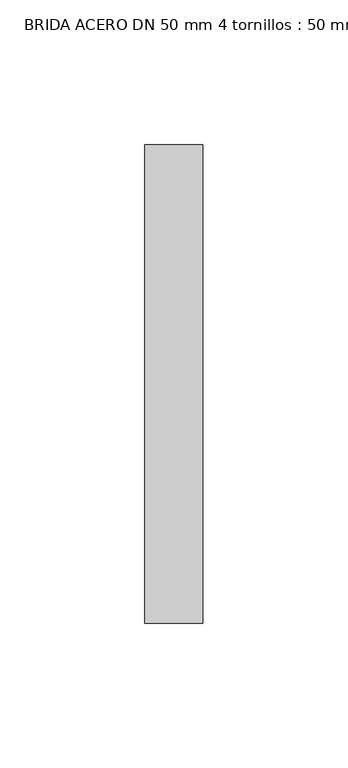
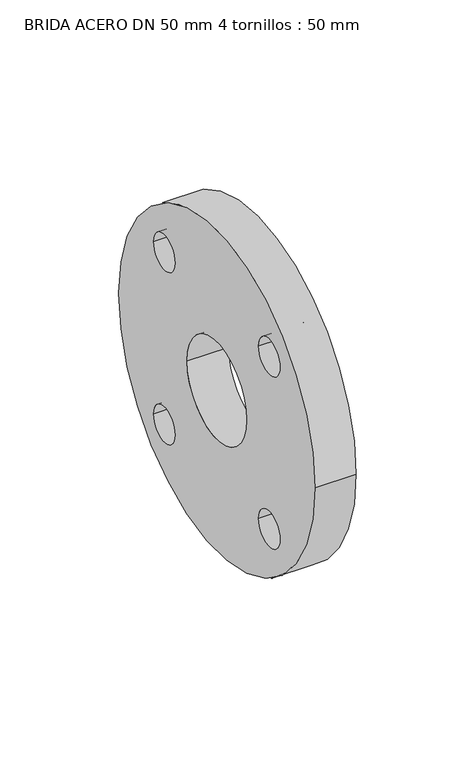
"""IFC4 building model written with IfcOpenShell, lengths in millimetres: pipe fitting geometry, BRIDA ACERO DN 50 mm 4 tornillos : 50 mm."""

import ifcopenshell
import ifcopenshell.guid

model = None  # the IFC model being written
_history = None  # IfcOwnerHistory: only IFC2X3 demands one
_inside = {}  # id of a spatial element -> (the spatial element, [elements in it])
_under = {}  # id of a project, library or spatial element -> (it, [spatial elements below it])
_declared = {}  # id of a project -> (the project, [libraries it declares])
_typed = {}  # id of a type object -> (the type object, [elements of that type])
_made_of = {}  # id of a material, layer set ... -> (it, [elements and type objects made of it])


def new_model(schema):
    """Start an empty IFC model of exactly this schema.

    Asked for "IFC4X3", IfcOpenShell would pick the latest addendum, in which some entities
    have other attributes; the version numbers below select the first issue.
    IFC2X3 requires an IfcOwnerHistory on every rooted entity: one is made here for all.
    """
    global model, _history
    if schema == "IFC4X3":
        model = ifcopenshell.file(schema_version=(4, 3, 0, 0))
    else:
        model = ifcopenshell.file(schema=schema)
    _inside.clear()
    _under.clear()
    _declared.clear()
    _typed.clear()
    _made_of.clear()
    _history = None
    if model.schema == "IFC2X3":
        org = make("IfcOrganization", Name="unknown")
        user = make(
            "IfcPersonAndOrganization",
            ThePerson=make("IfcPerson", FamilyName="unknown"),
            TheOrganization=org,
        )
        app = make(
            "IfcApplication",
            ApplicationDeveloper=org,
            Version="unknown",
            ApplicationFullName="unknown",
            ApplicationIdentifier="unknown",
        )
        _history = make(
            "IfcOwnerHistory",
            OwningUser=user,
            OwningApplication=app,
            ChangeAction="ADDED",
            CreationDate=0,
        )
    return model


def make(cls, **values):
    """One entity of the class cls with the attributes given. An attribute that is None is left unset."""
    return model.create_entity(
        cls, **{name: value for name, value in values.items() if value is not None}
    )


def rooted(cls, **values):
    """An entity with a GlobalId (a new one), such as an element, a storey or a relation."""
    return make(cls, GlobalId=ifcopenshell.guid.new(), OwnerHistory=_history, **values)


def si_unit(unit_type, name, prefix=None):
    """IfcSIUnit, for example si_unit("LENGTHUNIT", "METRE", prefix="MILLI")."""
    return make("IfcSIUnit", UnitType=unit_type, Prefix=prefix, Name=name)


def assignment(units):
    """IfcUnitAssignment: the units of a project."""
    return None if units is None else make("IfcUnitAssignment", Units=units)


def point(xyz):
    """IfcCartesianPoint."""
    return None if xyz is None else make("IfcCartesianPoint", Coordinates=xyz)


def direction(xyz):
    """IfcDirection."""
    return None if xyz is None else make("IfcDirection", DirectionRatios=xyz)


def frame(location, z_axis=None, x_axis=None):
    """IfcAxis2Placement3D, a coordinate frame: its origin and axes. An axis left out is left unset."""
    return make(
        "IfcAxis2Placement3D",
        Location=point(location),
        Axis=direction(z_axis),
        RefDirection=direction(x_axis),
    )


def frame_2d(location, x_axis=None):
    """IfcAxis2Placement2D, a coordinate frame in the plane: its origin and x axis."""
    return make(
        "IfcAxis2Placement2D", Location=point(location), RefDirection=direction(x_axis)
    )


def origin():
    """The frame at (0, 0, 0) with its axes left unset."""
    return frame((0.0, 0.0, 0.0))


def origin_2d():
    """The frame at (0, 0) in the plane with its x axis left unset."""
    return frame_2d((0.0, 0.0))


def place(relative_to, where):
    """IfcLocalPlacement: puts the frame where relative to a parent placement (None: the world)."""
    return make(
        "IfcLocalPlacement", PlacementRelTo=relative_to, RelativePlacement=where
    )


def context(
    kind, dimensions, precision=None, world=None, true_north=None, identifier=None
):
    """IfcGeometricRepresentationContext, for example the 3D "Model" context."""
    return make(
        "IfcGeometricRepresentationContext",
        ContextIdentifier=identifier,
        ContextType=kind,
        CoordinateSpaceDimension=dimensions,
        Precision=precision,
        WorldCoordinateSystem=world,
        TrueNorth=true_north,
    )


def project(units=None, contexts=None):
    """IfcProject with its units and contexts."""
    return rooted(
        "IfcProject",
        Name="project",
        RepresentationContexts=contexts,
        UnitsInContext=assignment(units),
    )


def spatial(cls, under=None, at=None, **own):
    """A site, building, storey or space (cls), placed at a placement, below another one or the project."""
    s = rooted(cls, ObjectPlacement=at, **own)
    if under is not None:
        _under.setdefault(under.id(), (under, []))[1].append(s)
    return s


def circle_curve(where, radius):
    """IfcCircle in the frame where."""
    return make("IfcCircle", Position=where, Radius=radius)


def trimmed(basis, trim1, trim2, sense, master):
    """IfcTrimmedCurve: the piece of a basis curve between two trims."""
    return make(
        "IfcTrimmedCurve",
        BasisCurve=basis,
        Trim1=trim1,
        Trim2=trim2,
        SenseAgreement=sense,
        MasterRepresentation=master,
    )


def segment(curve, same_sense, transition):
    """IfcCompositeCurveSegment."""
    return make(
        "IfcCompositeCurveSegment",
        Transition=transition,
        SameSense=same_sense,
        ParentCurve=curve,
    )


def composite_curve(segments, self_intersect=None):
    """IfcCompositeCurve: segments joined end to end."""
    return make("IfcCompositeCurve", Segments=segments, SelfIntersect=self_intersect)


def outline(outer, holes=None, kind="AREA"):
    """IfcArbitraryClosedProfileDef: a profile drawn as a closed curve; with holes, ...WithVoids."""
    if holes is None:
        return make("IfcArbitraryClosedProfileDef", ProfileType=kind, OuterCurve=outer)
    return make(
        "IfcArbitraryProfileDefWithVoids",
        ProfileType=kind,
        OuterCurve=outer,
        InnerCurves=holes,
    )


def extrude(swept, where, along, depth):
    """IfcExtrudedAreaSolid: the profile swept, set in the frame where, extruded along a direction by depth."""
    return make(
        "IfcExtrudedAreaSolid",
        SweptArea=swept,
        Position=where,
        ExtrudedDirection=direction(along),
        Depth=depth,
    )


def shape(context_of_items, identifier, shape_type, items):
    """IfcShapeRepresentation: the items that make up one representation, for example the "Body"."""
    return make(
        "IfcShapeRepresentation",
        ContextOfItems=context_of_items,
        RepresentationIdentifier=identifier,
        RepresentationType=shape_type,
        Items=items,
    )


def source(mapping_origin, context_of_items, identifier, shape_type, items):
    """IfcRepresentationMap: a shape defined once, which mapped items show again and again."""
    return make(
        "IfcRepresentationMap",
        MappingOrigin=mapping_origin,
        MappedRepresentation=shape(context_of_items, identifier, shape_type, items),
    )


def transform(
    local_origin,
    x_axis=None,
    y_axis=None,
    z_axis=None,
    scale=None,
    scale2=None,
    scale3=None,
    uniform=True,
):
    """IfcCartesianTransformationOperator3D, or its non-uniform kind. x_axis, y_axis, z_axis: its Axis1, 2, 3."""
    if uniform:
        return make(
            "IfcCartesianTransformationOperator3D",
            Axis1=direction(x_axis),
            Axis2=direction(y_axis),
            LocalOrigin=point(local_origin),
            Scale=scale,
            Axis3=direction(z_axis),
        )
    return make(
        "IfcCartesianTransformationOperator3DnonUniform",
        Axis1=direction(x_axis),
        Axis2=direction(y_axis),
        LocalOrigin=point(local_origin),
        Scale=scale,
        Axis3=direction(z_axis),
        Scale2=scale2,
        Scale3=scale3,
    )


def mapped(mapping_source, mapping_target):
    """IfcMappedItem: shows the shape of a source again, moved by a transform."""
    return make(
        "IfcMappedItem", MappingSource=mapping_source, MappingTarget=mapping_target
    )


def made_of(thing, what):
    """Note that an element or type object is made of a material, layer set ...; save() writes the relation."""
    if what is not None:
        _made_of.setdefault(what.id(), (what, []))[1].append(thing)
    return thing


def element(
    cls,
    number,
    at=None,
    inside=None,
    cuts=None,
    type_object=None,
    material=None,
    context=None,
    identifier="Body",
    shape_type=None,
    held_by="IfcProductDefinitionShape",
    body=None,
    shapes=None,
    **own,
):
    """One element of the class cls, such as IfcWall. Its Tag is "e" and its number.

    at: its placement. inside: the storey or other place that contains it. cuts: it is an
    opening in that element (IfcRelVoidsElement). A single representation is given by context,
    identifier, shape_type and body (its items); several are given by shapes. held_by: the class
    of the entity that holds the representations. save() writes the other relations.
    """
    e = rooted(cls, Tag="e%d" % number, ObjectPlacement=at, **own)
    if body is not None:
        shapes = [shape(context, identifier, shape_type, body)]
    if shapes is not None:
        e.Representation = make(held_by, Representations=shapes)
    if inside is not None:
        _inside.setdefault(inside.id(), (inside, []))[1].append(e)
    if cuts is not None:
        rooted(
            "IfcRelVoidsElement", RelatingBuildingElement=cuts, RelatedOpeningElement=e
        )
    if type_object is not None:
        _typed.setdefault(type_object.id(), (type_object, []))[1].append(e)
    return made_of(e, material)


def aggregate(whole, parts):
    """IfcRelAggregates: a whole, such as a stair, and the parts it consists of."""
    return rooted("IfcRelAggregates", RelatingObject=whole, RelatedObjects=parts)


def save(model, path):
    """Write the relations noted so far, then the file.

    IfcRelAggregates (storeys below a building ...), IfcRelContainedInSpatialStructure (elements
    in a storey), IfcRelDefinesByType, IfcRelAssociatesMaterial and IfcRelDeclares: one each for
    every whole, place, type object, material and project.
    """
    for whole, parts in _under.values():
        aggregate(whole, parts)
    for where, things in _inside.values():
        rooted(
            "IfcRelContainedInSpatialStructure",
            RelatedElements=things,
            RelatingStructure=where,
        )
    for kind, things in _typed.values():
        rooted("IfcRelDefinesByType", RelatedObjects=things, RelatingType=kind)
    for what, things in _made_of.values():
        rooted("IfcRelAssociatesMaterial", RelatedObjects=things, RelatingMaterial=what)
    for by, libraries in _declared.values():
        rooted("IfcRelDeclares", RelatingContext=by, RelatedDefinitions=libraries)
    model.write(path)


def brida_acero_dn_50_mm_4_tornillos_50_mm_0a0b1a1b(model_context):
    return source(origin(), model_context, "Body", "SweptSolid", [
        extrude(outline(composite_curve([segment(trimmed(circle_curve(origin_2d(), 82.5), [point((-82.5, 0.0))], [point((82.5, 0.0))], False, "CARTESIAN"), True, "CONTINUOUS"), segment(trimmed(circle_curve(origin_2d(), 82.5), [point((82.5, 0.0))], [point((-82.5, 0.0))], False, "CARTESIAN"), True, "CONTINUOUS")], self_intersect=False), holes=[composite_curve([segment(trimmed(circle_curve(frame_2d((-44.2, 44.2)), 9.0), [point((-53.2, 44.2))], [point((-35.2, 44.2))], True, "CARTESIAN"), True, "CONTINUOUS"), segment(trimmed(circle_curve(frame_2d((-44.2, 44.2)), 9.0), [point((-35.2, 44.2))], [point((-53.2, 44.2))], True, "CARTESIAN"), True, "CONTINUOUS")], self_intersect=False), composite_curve([segment(trimmed(circle_curve(origin_2d(), 25.0), [point((-25.0, 0.0))], [point((25.0, 0.0))], True, "CARTESIAN"), True, "CONTINUOUS"), segment(trimmed(circle_curve(origin_2d(), 25.0), [point((25.0, 0.0))], [point((-25.0, 0.0))], True, "CARTESIAN"), True, "CONTINUOUS")], self_intersect=False), composite_curve([segment(trimmed(circle_curve(frame_2d((44.2, 44.2)), 9.0), [point((35.2, 44.2))], [point((53.2, 44.2))], True, "CARTESIAN"), True, "CONTINUOUS"), segment(trimmed(circle_curve(frame_2d((44.2, 44.2)), 9.0), [point((53.2, 44.2))], [point((35.2, 44.2))], True, "CARTESIAN"), True, "CONTINUOUS")], self_intersect=False), composite_curve([segment(trimmed(circle_curve(frame_2d((-44.2, -44.2)), 9.0), [point((-53.2, -44.2))], [point((-35.2, -44.2))], True, "CARTESIAN"), True, "CONTINUOUS"), segment(trimmed(circle_curve(frame_2d((-44.2, -44.2)), 9.0), [point((-35.2, -44.2))], [point((-53.2, -44.2))], True, "CARTESIAN"), True, "CONTINUOUS")], self_intersect=False), composite_curve([segment(trimmed(circle_curve(frame_2d((44.2, -44.2)), 9.0), [point((35.2, -44.2))], [point((53.2, -44.2))], True, "CARTESIAN"), True, "CONTINUOUS"), segment(trimmed(circle_curve(frame_2d((44.2, -44.2)), 9.0), [point((53.2, -44.2))], [point((35.2, -44.2))], True, "CARTESIAN"), True, "CONTINUOUS")], self_intersect=False)]), frame((0.0, 0.0, 0.0), z_axis=(1.0, 0.0, 0.0), x_axis=(0.0, 1.0, 0.0)), (0.0, 0.0, 1.0), 20.0),
    ])


if __name__ == "__main__":
    model = new_model("IFC4")
    model_context = context("Model", 3, world=origin())
    ifc_project = project(units=[si_unit("LENGTHUNIT", "METRE", prefix="MILLI")], contexts=[model_context])
    site = spatial("IfcSite", under=ifc_project)
    building = spatial("IfcBuilding", under=site)
    placement = place(None, origin())
    brida_acero_dn_50_mm_4_tornillos_50_mm_shape = brida_acero_dn_50_mm_4_tornillos_50_mm_0a0b1a1b(model_context)
    element("IfcPipeFitting", 1, ObjectType="BRIDA ACERO DN 50 mm 4 tornillos : 50 mm", at=placement, inside=building, context=model_context, shape_type="MappedRepresentation", body=[
        mapped(brida_acero_dn_50_mm_4_tornillos_50_mm_shape, transform((0.0, 0.0, 0.0), x_axis=(1.0, 0.0, 0.0), y_axis=(0.0, 1.0, 0.0), z_axis=(0.0, 0.0, 1.0))),
    ])
    save(model, "model.ifc")
